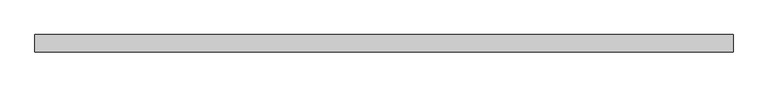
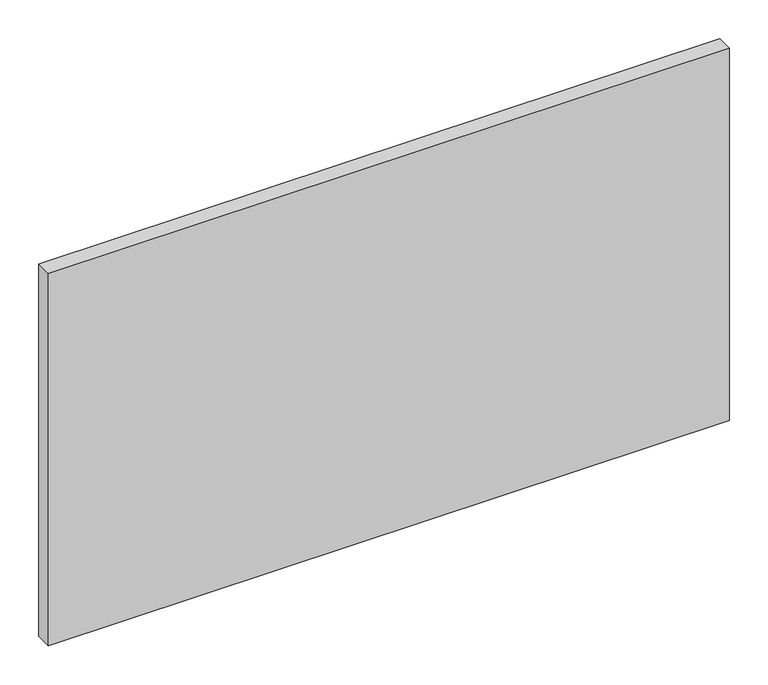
"""IFC4 building model written with IfcOpenShell, lengths in millimetres: plate geometry, 系统嵌板 : 玻璃."""

from ifc_helpers import new_model, si_unit, origin, origin_with_axes, place, context, project, spatial, polyline, outline, extrude, source, transform, mapped, element, save


def plate_d4818a0d(model_context):
    return source(origin(), model_context, "Body", "SweptSolid", [
        extrude(outline(polyline([(510.0000124, -12.5), (-510.0000124, -12.5), (-510.0000124, 12.5), (510.0000124, 12.5), (510.0000124, -12.5)])), origin_with_axes(), (0.0, 0.0, 1.0), 590.0),
    ])


if __name__ == "__main__":
    model = new_model("IFC4")
    model_context = context("Model", 3, world=origin())
    ifc_project = project(units=[si_unit("LENGTHUNIT", "METRE", prefix="MILLI")], contexts=[model_context])
    site = spatial("IfcSite", under=ifc_project)
    building = spatial("IfcBuilding", under=site)
    placement = place(None, origin())
    plate_shape = plate_d4818a0d(model_context)
    element("IfcPlate", 1, ObjectType="系统嵌板 : 玻璃", at=placement, inside=building, context=model_context, shape_type="MappedRepresentation", body=[
        mapped(plate_shape, transform((0.0, 0.0, 0.0), x_axis=(1.0, 0.0, 0.0), y_axis=(0.0, 1.0, 0.0), z_axis=(0.0, 0.0, 1.0))),
    ])
    save(model, "model.ifc")
